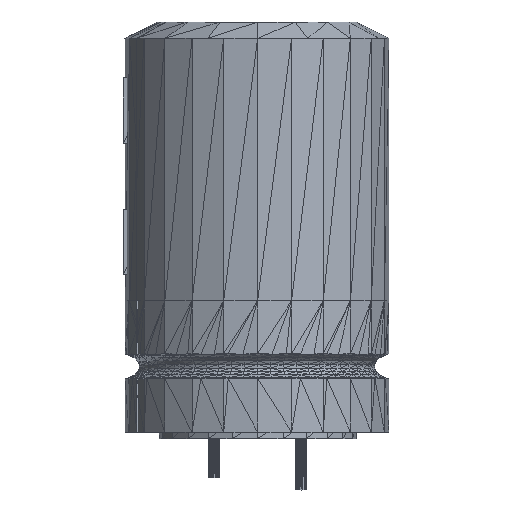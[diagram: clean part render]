
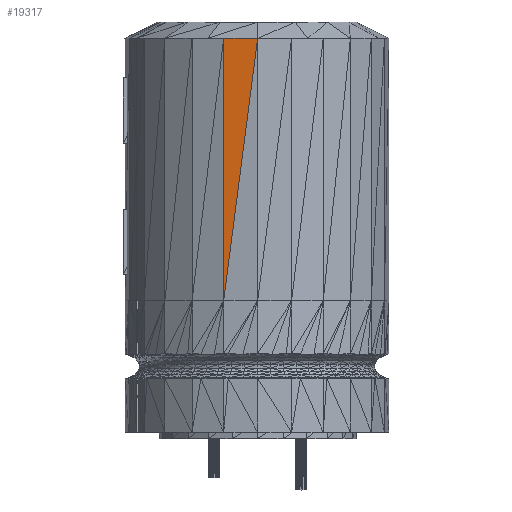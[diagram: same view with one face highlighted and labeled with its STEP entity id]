
A CAD part, front view. The second image highlights one B-rep face of the part: STEP entity #19317.
In plain terms, the highlighted planar face has unit normal (0.131, 0.991, 0).
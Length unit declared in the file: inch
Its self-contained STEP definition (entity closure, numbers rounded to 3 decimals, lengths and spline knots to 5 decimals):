
#15683=CARTESIAN_POINT('',(-0.07765,-0.28996,0.91494));
#15684=VERTEX_POINT('',#15683);
#16300=CARTESIAN_POINT('',(0.,-0.30019,0.91494));
#16301=VERTEX_POINT('',#16300);
#17412=CARTESIAN_POINT('',(0.,-0.30019,0.91494));
#17413=DIRECTION('',(-0.991,0.131,0.));
#17414=VECTOR('',#17413,0.07832);
#17415=LINE('',#17412,#17414);
#17416=EDGE_CURVE('',#16301,#15684,#17415,.T.);
#19182=CARTESIAN_POINT('',(-0.07765,-0.28984,0.31494));
#19183=VERTEX_POINT('',#19182);
#19271=CARTESIAN_POINT('',(-0.07765,-0.28984,0.31494));
#19272=DIRECTION('',(0.,0.,1.));
#19273=VECTOR('',#19272,0.6);
#19274=LINE('',#19271,#19273);
#19275=EDGE_CURVE('',#19183,#15684,#19274,.T.);
#19298=CARTESIAN_POINT('',(-0.07765,-0.28984,0.31494));
#19299=DIRECTION('',(0.128,-0.017,0.992));
#19300=VECTOR('',#19299,0.60509);
#19301=LINE('',#19298,#19300);
#19302=EDGE_CURVE('',#19183,#16301,#19301,.T.);
#19307=CARTESIAN_POINT('',(-0.07765,-0.28984,0.31494));
#19308=DIRECTION('',(0.131,0.991,0.));
#19309=DIRECTION('',(0.991,-0.131,0.));
#19310=AXIS2_PLACEMENT_3D('',#19307,#19308,#19309);
#19311=PLANE('',#19310);
#19312=ORIENTED_EDGE('',*,*,#19275,.T.);
#19313=ORIENTED_EDGE('',*,*,#17416,.F.);
#19314=ORIENTED_EDGE('',*,*,#19302,.F.);
#19315=EDGE_LOOP('',(#19312,#19313,#19314));
#19316=FACE_BOUND('',#19315,.T.);
#19317=ADVANCED_FACE('',(#19316),#19311,.T.);
